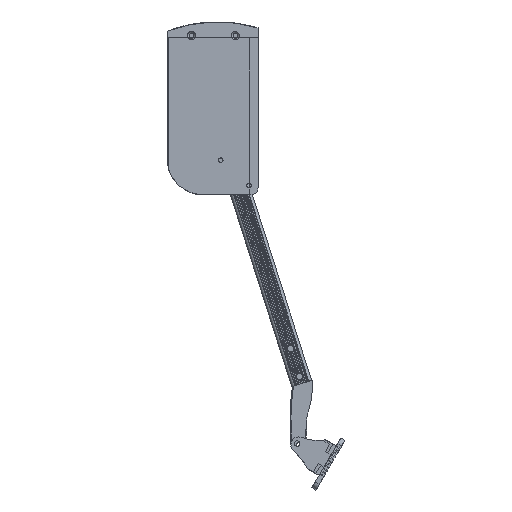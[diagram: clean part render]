
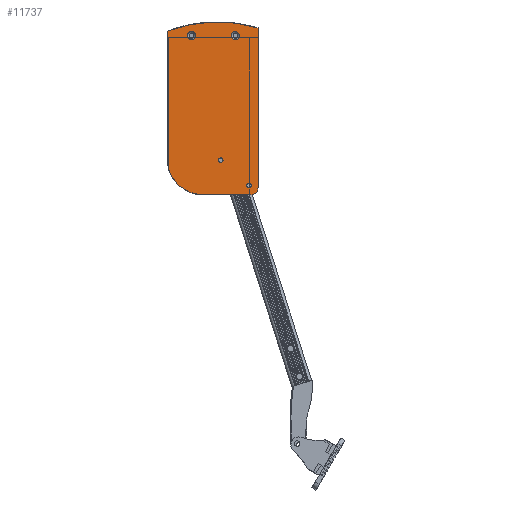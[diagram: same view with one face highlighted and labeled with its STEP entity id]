
A CAD part, left-side view. The second image highlights one B-rep face of the part: STEP entity #11737.
In plain terms, the highlighted planar face has unit normal (-1, 0, 0) as drawn and (0, 0, 1) by its records, which use the part's own axes.
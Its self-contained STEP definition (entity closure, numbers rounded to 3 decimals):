
#131=FACE_BOUND('',#1360,.T.);
#132=FACE_BOUND('',#1361,.T.);
#133=FACE_BOUND('',#1362,.T.);
#134=FACE_BOUND('',#1363,.T.);
#310=PLANE('',#12509);
#695=FACE_OUTER_BOUND('',#1359,.T.);
#1359=EDGE_LOOP('',(#8496,#8497,#8498,#8499,#8500,#8501));
#1360=EDGE_LOOP('',(#8502));
#1361=EDGE_LOOP('',(#8503));
#1362=EDGE_LOOP('',(#8504));
#1363=EDGE_LOOP('',(#8505));
#1991=CIRCLE('',#12500,4.5);
#1998=CIRCLE('',#12510,156.848);
#1999=CIRCLE('',#12511,40.);
#2000=CIRCLE('',#12512,8.);
#2001=CIRCLE('',#12513,4.5);
#2002=CIRCLE('',#12514,2.5);
#2003=CIRCLE('',#12515,2.5);
#2844=LINE('',#18933,#3787);
#2845=LINE('',#18937,#3788);
#2846=LINE('',#18941,#3789);
#3787=VECTOR('',#14066,10.);
#3788=VECTOR('',#14069,10.);
#3789=VECTOR('',#14072,10.);
#4936=VERTEX_POINT('',#18875);
#4956=VERTEX_POINT('',#18931);
#4957=VERTEX_POINT('',#18932);
#4958=VERTEX_POINT('',#18934);
#4959=VERTEX_POINT('',#18936);
#4960=VERTEX_POINT('',#18938);
#4961=VERTEX_POINT('',#18940);
#4962=VERTEX_POINT('',#18943);
#4963=VERTEX_POINT('',#18945);
#4964=VERTEX_POINT('',#18947);
#6270=EDGE_CURVE('',#4936,#4936,#1991,.T.);
#6293=EDGE_CURVE('',#4956,#4957,#2844,.T.);
#6294=EDGE_CURVE('',#4957,#4958,#1998,.T.);
#6295=EDGE_CURVE('',#4958,#4959,#2845,.T.);
#6296=EDGE_CURVE('',#4959,#4960,#1999,.T.);
#6297=EDGE_CURVE('',#4960,#4961,#2846,.T.);
#6298=EDGE_CURVE('',#4961,#4956,#2000,.T.);
#6299=EDGE_CURVE('',#4962,#4962,#2001,.T.);
#6300=EDGE_CURVE('',#4963,#4963,#2002,.T.);
#6301=EDGE_CURVE('',#4964,#4964,#2003,.T.);
#8496=ORIENTED_EDGE('',*,*,#6293,.T.);
#8497=ORIENTED_EDGE('',*,*,#6294,.T.);
#8498=ORIENTED_EDGE('',*,*,#6295,.T.);
#8499=ORIENTED_EDGE('',*,*,#6296,.T.);
#8500=ORIENTED_EDGE('',*,*,#6297,.T.);
#8501=ORIENTED_EDGE('',*,*,#6298,.T.);
#8502=ORIENTED_EDGE('',*,*,#6299,.F.);
#8503=ORIENTED_EDGE('',*,*,#6300,.T.);
#8504=ORIENTED_EDGE('',*,*,#6301,.T.);
#8505=ORIENTED_EDGE('',*,*,#6270,.F.);
#11737=ADVANCED_FACE('',(#695,#131,#132,#133,#134),#310,.T.);
#12500=AXIS2_PLACEMENT_3D('',#18876,#14035,#14036);
#12509=AXIS2_PLACEMENT_3D('',#18930,#14064,#14065);
#12510=AXIS2_PLACEMENT_3D('',#18935,#14067,#14068);
#12511=AXIS2_PLACEMENT_3D('',#18939,#14070,#14071);
#12512=AXIS2_PLACEMENT_3D('',#18942,#14073,#14074);
#12513=AXIS2_PLACEMENT_3D('',#18944,#14075,#14076);
#12514=AXIS2_PLACEMENT_3D('',#18946,#14077,#14078);
#12515=AXIS2_PLACEMENT_3D('',#18948,#14079,#14080);
#14035=DIRECTION('center_axis',(0.,0.,1.));
#14036=DIRECTION('ref_axis',(-1.,0.,0.));
#14064=DIRECTION('center_axis',(0.,0.,1.));
#14065=DIRECTION('ref_axis',(1.,0.,0.));
#14066=DIRECTION('',(0.,1.,0.));
#14067=DIRECTION('center_axis',(0.,0.,1.));
#14068=DIRECTION('ref_axis',(0.285,0.958,0.));
#14069=DIRECTION('',(0.,-1.,0.));
#14070=DIRECTION('center_axis',(0.,0.,1.));
#14071=DIRECTION('ref_axis',(-1.,0.,0.));
#14072=DIRECTION('',(1.,0.,0.));
#14073=DIRECTION('center_axis',(0.,0.,1.));
#14074=DIRECTION('ref_axis',(0.,-1.,0.));
#14075=DIRECTION('center_axis',(0.,0.,1.));
#14076=DIRECTION('ref_axis',(-1.,0.,0.));
#14077=DIRECTION('center_axis',(0.,0.,-1.));
#14078=DIRECTION('ref_axis',(-1.,0.,0.));
#14079=DIRECTION('center_axis',(0.,0.,-1.));
#14080=DIRECTION('ref_axis',(-1.,0.,0.));
#18875=CARTESIAN_POINT('',(-68.5,175.,24.));
#18876=CARTESIAN_POINT('Origin',(-73.,175.,24.));
#18930=CARTESIAN_POINT('Origin',(-78.751,132.099,24.));
#18931=CARTESIAN_POINT('',(0.,8.,24.));
#18932=CARTESIAN_POINT('',(0.,183.487,24.));
#18933=CARTESIAN_POINT('',(0.,8.,24.));
#18934=CARTESIAN_POINT('',(-100.,179.938,24.));
#18935=CARTESIAN_POINT('Origin',(-44.728,33.152,24.));
#18936=CARTESIAN_POINT('',(-100.,40.,24.));
#18937=CARTESIAN_POINT('',(-100.,179.938,24.));
#18938=CARTESIAN_POINT('',(-60.,0.,24.));
#18939=CARTESIAN_POINT('Origin',(-60.,40.,24.));
#18940=CARTESIAN_POINT('',(-8.,0.,24.));
#18941=CARTESIAN_POINT('',(-60.,0.,24.));
#18942=CARTESIAN_POINT('Origin',(-8.,8.,24.));
#18943=CARTESIAN_POINT('',(-20.5,175.,24.));
#18944=CARTESIAN_POINT('Origin',(-25.,175.,24.));
#18945=CARTESIAN_POINT('',(-7.5,10.,24.));
#18946=CARTESIAN_POINT('Origin',(-10.,10.,24.));
#18947=CARTESIAN_POINT('',(-38.5,38.,24.));
#18948=CARTESIAN_POINT('Origin',(-41.,38.,24.));
